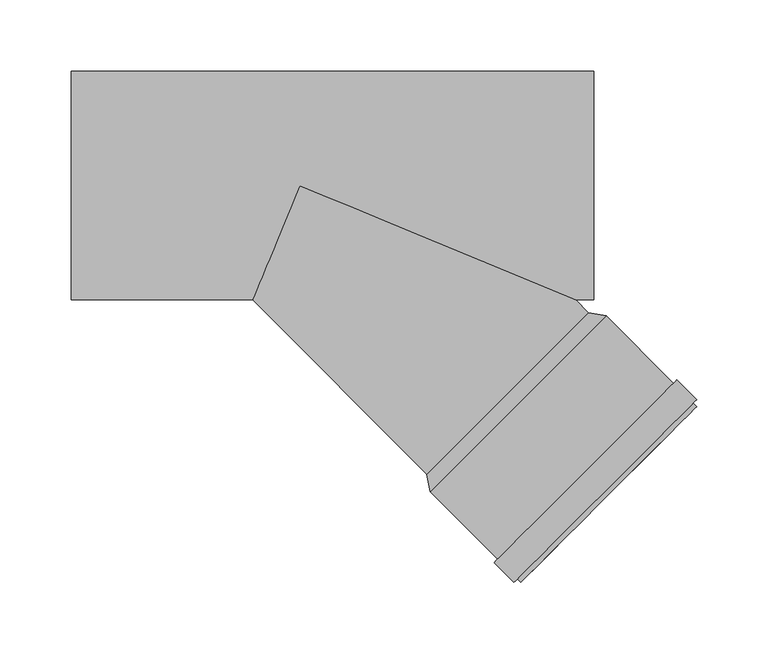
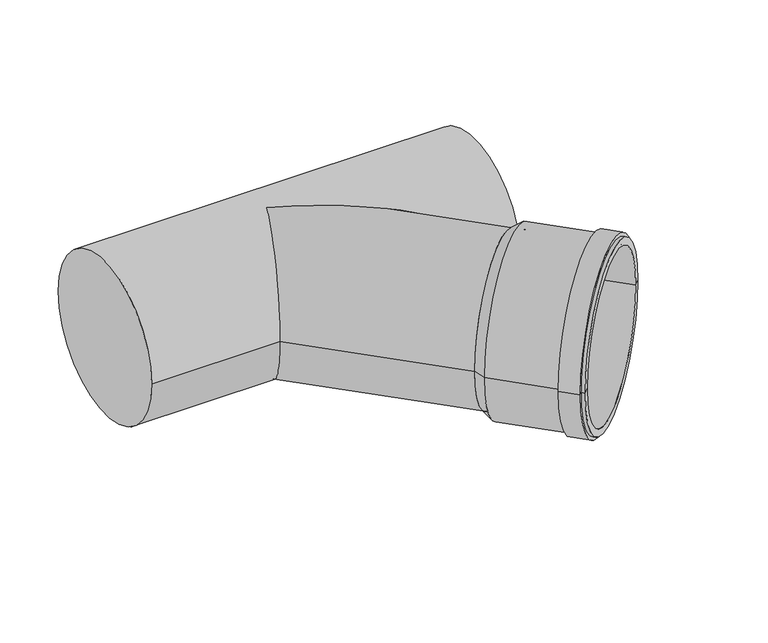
"""IFC4 building model written with IfcOpenShell, lengths in millimetres: pipe fitting geometry, pf_HTEA : pf_HTEA."""

from ifc_helpers import new_model, si_unit, frame, origin, place, context, project, spatial, polyline, circle_curve, ellipse_curve, source, transform, mapped, element, save
from ifc_brep_helpers import plane_surface, cylinder_surface, revolved_surface, advanced_brep


def pipe_fitting_42979814(model_context):
    return source(origin(), model_context, "Body", "AdvancedBrep", [
        advanced_brep(
        [(89.0247438, -202.1618287, 0.0), (202.1618287, -89.0247438, 0.0), (214.4654867, -91.2874855, 0.0), (91.2874855, -214.4654867, 0.0), (145.5932862, -145.5932862, 0.0), (154.7149637, -277.892965, 0.0), (277.892965, -154.7149637, 0.0), (272.8725069, -159.7354219, 0.0), (159.7354219, -272.8725069, 0.0), (152.3108007, -275.488802, 0.0), (275.488802, -152.3108007, 0.0), (149.9066376, -277.892965, 0.0), (277.892965, -149.9066376, 0.0), (136.1180554, -264.1043828, 0.0), (264.1043828, -136.1180554, 0.0), (138.5222184, -261.7002197, 0.0), (261.7002197, -138.5222184, 0.0), (96.3079436, -209.4450286, 0.0), (209.4450286, -96.3079436, 0.0), (152.8764861, -152.8764861, 0.0)],
        [
            (0, 1, circle_curve(frame((145.5932862, -145.5932862, 0.0), z_axis=(0.7071067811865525, -0.7071067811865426, 0.0), x_axis=(0.7071067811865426, 0.7071067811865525, 0.0)), 80.0)),
            (1, 2),
            (2, 3, circle_curve(frame((152.8764861, -152.8764861, 0.0), z_axis=(-0.7071067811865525, 0.7071067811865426, 0.0), x_axis=(0.7071067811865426, 0.7071067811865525, 0.0)), 87.1)),
            (3, 0),
            (1, 0, circle_curve(frame((145.5932862, -145.5932862, 0.0), z_axis=(0.7071067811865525, -0.7071067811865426, 0.0), x_axis=(0.7071067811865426, 0.7071067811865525, 0.0)), 80.0)),
            (3, 2, circle_curve(frame((152.8764861, -152.8764861, 0.0), z_axis=(-0.7071067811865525, 0.7071067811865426, 0.0), x_axis=(0.7071067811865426, 0.7071067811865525, 0.0)), 87.1)),
            (4, 1),
            (0, 4),
            (5, 6, circle_curve(frame((216.3039644, -216.3039644, 0.0), z_axis=(0.7071067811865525, -0.7071067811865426, 0.0), x_axis=(0.7071067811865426, 0.7071067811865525, 0.0)), 87.1)),
            (6, 7),
            (7, 8, circle_curve(frame((216.3039644, -216.3039644, 0.0), z_axis=(-0.7071067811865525, 0.7071067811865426, 0.0), x_axis=(0.7071067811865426, 0.7071067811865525, 0.0)), 80.0)),
            (8, 5),
            (6, 5, circle_curve(frame((216.3039644, -216.3039644, 0.0), z_axis=(0.7071067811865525, -0.7071067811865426, 0.0), x_axis=(0.7071067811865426, 0.7071067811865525, 0.0)), 87.1)),
            (8, 7, circle_curve(frame((216.3039644, -216.3039644, 0.0), z_axis=(-0.7071067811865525, 0.7071067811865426, 0.0), x_axis=(0.7071067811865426, 0.7071067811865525, 0.0)), 80.0)),
            (9, 10, circle_curve(frame((213.8998013, -213.8998013, 0.0), z_axis=(0.7071067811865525, -0.7071067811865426, 0.0), x_axis=(0.7071067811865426, 0.7071067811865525, 0.0)), 87.1)),
            (10, 6),
            (5, 9),
            (10, 9, circle_curve(frame((213.8998013, -213.8998013, 0.0), z_axis=(0.7071067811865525, -0.7071067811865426, 0.0), x_axis=(0.7071067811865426, 0.7071067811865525, 0.0)), 87.1)),
            (11, 12, circle_curve(frame((213.8998013, -213.8998013, 0.0), z_axis=(0.7071067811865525, -0.7071067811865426, 0.0), x_axis=(0.7071067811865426, 0.7071067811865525, 0.0)), 90.5)),
            (12, 10),
            (9, 11),
            (12, 11, circle_curve(frame((213.8998013, -213.8998013, 0.0), z_axis=(0.7071067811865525, -0.7071067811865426, 0.0), x_axis=(0.7071067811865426, 0.7071067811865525, 0.0)), 90.5)),
            (13, 14, circle_curve(frame((200.1112191, -200.1112191, 0.0), z_axis=(0.7071067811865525, -0.7071067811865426, 0.0), x_axis=(0.7071067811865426, 0.7071067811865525, 0.0)), 90.5)),
            (14, 12),
            (11, 13),
            (14, 13, circle_curve(frame((200.1112191, -200.1112191, 0.0), z_axis=(0.7071067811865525, -0.7071067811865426, 0.0), x_axis=(0.7071067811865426, 0.7071067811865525, 0.0)), 90.5)),
            (15, 16, circle_curve(frame((200.1112191, -200.1112191, 0.0), z_axis=(0.7071067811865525, -0.7071067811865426, 0.0), x_axis=(0.7071067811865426, 0.7071067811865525, 0.0)), 87.1)),
            (16, 14),
            (13, 15),
            (16, 15, circle_curve(frame((200.1112191, -200.1112191, 0.0), z_axis=(0.7071067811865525, -0.7071067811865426, 0.0), x_axis=(0.7071067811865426, 0.7071067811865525, 0.0)), 87.1)),
            (2, 16),
            (15, 3),
            (17, 18, circle_curve(frame((152.8764861, -152.8764861, 0.0), z_axis=(0.7071067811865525, -0.7071067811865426, 0.0), x_axis=(0.7071067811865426, 0.7071067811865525, 0.0)), 80.0)),
            (18, 19),
            (19, 17),
            (18, 17, circle_curve(frame((152.8764861, -152.8764861, 0.0), z_axis=(0.7071067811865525, -0.7071067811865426, 0.0), x_axis=(0.7071067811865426, 0.7071067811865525, 0.0)), 80.0)),
            (7, 18),
            (17, 8),
        ],
        [
            revolved_surface(polyline([(214.4654867, -91.2874855, 0.0), (202.1618287, -89.0247438, 0.0)]), (145.5932862, -145.5932862, 0.0), (-0.7071067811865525, 0.7071067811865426, 0.0)),
            plane_surface(frame((145.5932862, -145.5932862, 0.0), z_axis=(-0.7071067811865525, 0.7071067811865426, 0.0), x_axis=(0.7071067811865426, 0.7071067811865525, 0.0))),
            plane_surface(frame((216.3039644, -216.3039644, 0.0), z_axis=(0.7071067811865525, -0.7071067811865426, 0.0), x_axis=(0.7071067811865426, 0.7071067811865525, 0.0))),
            cylinder_surface(frame((145.5932862, -145.5932862, 0.0), z_axis=(-0.7071067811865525, 0.7071067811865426, 0.0), x_axis=(0.7071067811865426, 0.7071067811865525, 0.0)), 87.1),
            plane_surface(frame((213.8998013, -213.8998013, 0.0), z_axis=(0.7071067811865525, -0.7071067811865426, 0.0), x_axis=(0.7071067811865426, 0.7071067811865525, 0.0))),
            cylinder_surface(frame((145.5932862, -145.5932862, 0.0), z_axis=(-0.7071067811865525, 0.7071067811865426, 0.0), x_axis=(0.7071067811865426, 0.7071067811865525, 0.0)), 90.5),
            plane_surface(frame((200.1112191, -200.1112191, 0.0), z_axis=(-0.7071067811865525, 0.7071067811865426, 0.0), x_axis=(0.7071067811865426, 0.7071067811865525, 0.0))),
            plane_surface(frame((152.8764861, -152.8764861, 0.0), z_axis=(0.7071067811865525, -0.7071067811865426, 0.0), x_axis=(0.7071067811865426, 0.7071067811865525, 0.0))),
            revolved_surface(polyline([(209.44502859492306, -96.30794360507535, 0.0), (272.8725068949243, -159.73542190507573, 0.0)]), (145.5932862, -145.5932862, 0.0), (-0.7071067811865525, 0.7071067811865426, 0.0)),
        ],
        [
            (0, [[1, 2, 3, 4]]),
            (0, [[5, -4, 6, -2]]),
            (1, [[7, -1, 8]]),
            (1, [[-8, -5, -7]]),
            (2, [[9, 10, 11, 12]]),
            (2, [[13, -12, 14, -10]]),
            (3, [[15, 16, -9, 17]]),
            (3, [[18, -17, -13, -16]]),
            (4, [[19, 20, -15, 21]]),
            (4, [[22, -21, -18, -20]]),
            (5, [[23, 24, -19, 25]]),
            (5, [[26, -25, -22, -24]]),
            (6, [[27, 28, -23, 29]]),
            (6, [[30, -29, -26, -28]]),
            (3, [[-3, 31, -27, 32]]),
            (3, [[-6, -32, -30, -31]]),
            (7, [[33, 34, 35]]),
            (7, [[36, -35, -34]]),
            (8, [[-11, 37, -33, 38]]),
            (8, [[-14, -38, -36, -37]]),
        ],
    ),
        advanced_brep(
        [(89.0247438, -202.1618287, 0.0), (202.1618287, -89.0247438, 0.0), (-160.0, -80.0, 0.0), (-160.0, 80.0, 0.0), (205.9, -80.0, 0.0), (205.9, 80.0, 0.0), (-33.137085, -80.0, 0.0), (0.0, 0.0, 80.0), (193.137085, -80.0, 0.0), (0.0, 0.0, -80.0)],
        [
            (0, 1, circle_curve(frame((145.5932862, -145.5932862, 0.0), z_axis=(0.7071067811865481, -0.7071067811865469, 0.0), x_axis=(0.7071067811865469, 0.7071067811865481, 0.0)), 80.0)),
            (1, 0, circle_curve(frame((145.5932862, -145.5932862, 0.0), z_axis=(0.7071067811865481, -0.7071067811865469, 0.0), x_axis=(0.7071067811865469, 0.7071067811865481, 0.0)), 80.0)),
            (2, 3, circle_curve(frame((-160.0, 0.0, 0.0), z_axis=(-1.0, 0.0, 0.0), x_axis=(0.0, 1.0, 0.0)), 80.0)),
            (3, 2, circle_curve(frame((-160.0, 0.0, 0.0), z_axis=(-1.0, 0.0, 0.0), x_axis=(0.0, 1.0, 0.0)), 80.0)),
            (4, 5, circle_curve(frame((205.9, 0.0, 0.0), z_axis=(1.0, 0.0, 0.0), x_axis=(0.0, 1.0, 0.0)), 80.0)),
            (5, 4, circle_curve(frame((205.9, 0.0, 0.0), z_axis=(1.0, 0.0, 0.0), x_axis=(0.0, 1.0, 0.0)), 80.0)),
            (2, 6),
            (6, 7, ellipse_curve(frame((0.0, 0.0, 0.0), z_axis=(-0.923879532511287, 0.3826834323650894, 0.0), x_axis=(-0.3826834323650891, -0.9238795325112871, 0.0)), 86.591376, 80.0)),
            (7, 8, ellipse_curve(frame((0.0, 0.0, 0.0), z_axis=(0.3826834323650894, 0.923879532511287, 0.0), x_axis=(-0.923879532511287, 0.38268343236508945, 0.0)), 209.0500744, 80.0)),
            (8, 4),
            (5, 3),
            (8, 9, ellipse_curve(frame((0.0, 0.0, 0.0), z_axis=(0.3826834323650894, 0.923879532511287, 0.0), x_axis=(-0.923879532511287, 0.38268343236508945, 0.0)), 209.0500744, 80.0)),
            (9, 6, ellipse_curve(frame((0.0, 0.0, 0.0), z_axis=(-0.923879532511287, 0.3826834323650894, 0.0), x_axis=(-0.3826834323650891, -0.9238795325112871, 0.0)), 86.591376, 80.0)),
            (1, 8),
            (6, 0),
        ],
        [
            plane_surface(frame((145.5932862, -145.5932862, 0.0), z_axis=(0.7071067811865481, -0.7071067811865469, 0.0), x_axis=(0.0, 0.0, 1.0))),
            plane_surface(frame((-160.0, 0.0, 0.0), z_axis=(-1.0, 0.0, 0.0), x_axis=(0.0, 0.0, 1.0))),
            plane_surface(frame((205.9, 0.0, 0.0), z_axis=(1.0, 0.0, 0.0), x_axis=(0.0, 0.0, 1.0))),
            cylinder_surface(frame((-160.0, 0.0, 0.0), z_axis=(-1.0, 0.0, 0.0), x_axis=(0.0, 1.0, 0.0)), 80.0),
            cylinder_surface(frame((0.0, 0.0, 0.0), z_axis=(-0.7071067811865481, 0.7071067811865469, 0.0), x_axis=(0.7071067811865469, 0.7071067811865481, 0.0)), 80.0),
        ],
        [
            (0, [[1, 2]]),
            (1, [[3, 4]]),
            (2, [[5, 6]]),
            (3, [[-3, 7, 8, 9, 10, -6, 11]]),
            (3, [[-4, -11, -5, -10, 12, 13, -7]]),
            (4, [[-2, 14, -9, -8, 15]]),
            (4, [[-1, -15, -13, -12, -14]]),
        ],
    ),
    ])


if __name__ == "__main__":
    model = new_model("IFC4")
    model_context = context("Model", 3, world=origin())
    ifc_project = project(units=[si_unit("LENGTHUNIT", "METRE", prefix="MILLI")], contexts=[model_context])
    site = spatial("IfcSite", under=ifc_project)
    building = spatial("IfcBuilding", under=site)
    placement = place(None, origin())
    pipe_fitting_shape = pipe_fitting_42979814(model_context)
    element("IfcPipeFitting", 1, ObjectType="pf_HTEA : pf_HTEA", at=placement, inside=building, context=model_context, shape_type="MappedRepresentation", body=[
        mapped(pipe_fitting_shape, transform((0.0, 0.0, 0.0), x_axis=(1.0, 0.0, 0.0), y_axis=(0.0, 1.0, 0.0), z_axis=(0.0, 0.0, 1.0))),
    ])
    save(model, "model.ifc")
